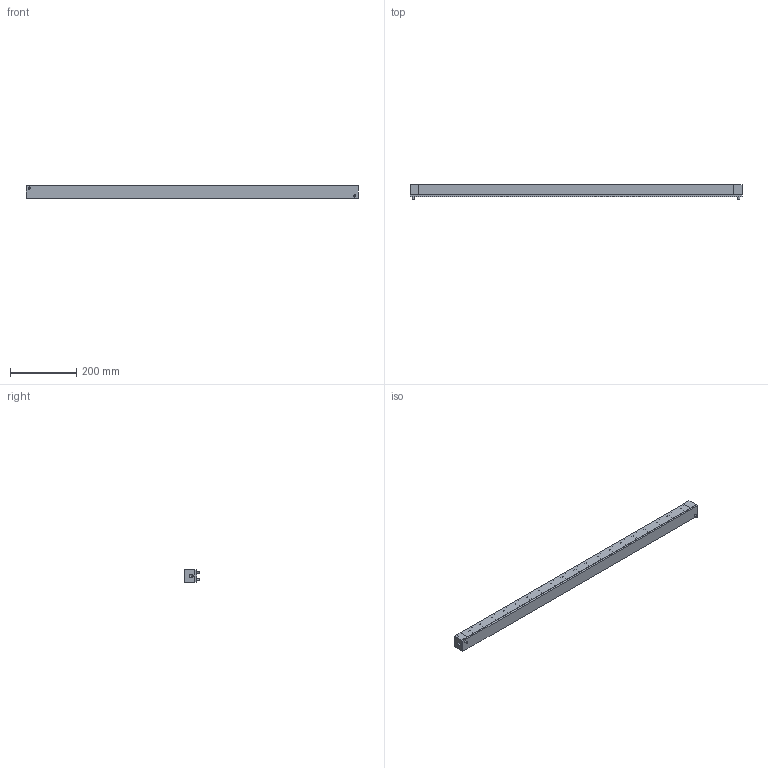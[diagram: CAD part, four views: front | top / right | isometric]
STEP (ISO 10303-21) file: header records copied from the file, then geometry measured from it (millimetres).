
FILE_DESCRIPTION( ( 'STEP AP214' ), '1' );
FILE_NAME( 'Z:/01-DesignData/標準品図面/★Web／カタログ用データ(型式別 3点Set)/067-ISR38 系/ISR38-1000-A_0_.stp', '2022-05-10T00:08:37', ( 'License CC BY-ND 4.0' ), ( 'CADENAS' ), ' ', 'PARTsolutions', ' ' );
FILE_SCHEMA( ( 'AUTOMOTIVE_DESIGN { 1 0 10303 214 1 1 1 1 }' ) );
Length unit declared in the file: millimetre
Products named in the file (5): ISR38-1000-A(0); _ISR38-1000-A-Body; _ISR38-1000-A-Box; _ISR38-1000-A(0)-Ball; _ISR38-1000-A-screw
Assembly tree (23 placements, depth 2):
  ISR38-1000-A(0)
    _ISR38-1000-A-Body
    _ISR38-1000-A-Box
    _ISR38-1000-A(0)-Ball  x19
    _ISR38-1000-A-screw  x2
Bounding box: 1000 x 45 x 38 mm (x, y, z)
Volume: 1319599.2 mm3; surface area: 400643.9 mm2
Topology: 23 solids, 23 shells, 1085 faces, 2268 edges, 1408 vertices
Faces by surface type: plane 757, cylinder 183, cone 84, torus 42, sphere 19
Full cylindrical faces by diameter (mm): 6 x2, 6.5 x2, 7 x2, 8 x2, 8.5 x38, 9.5 x38, 10 x2, 11 x2, 25.7 x19, 31.5 x19, 32 x19, 35 x38
Entity records: 28896 total; most frequent: DIRECTION 3930, CARTESIAN_POINT 3614, ORIENTED_EDGE 3200, EDGE_CURVE 1600, AXIS2_PLACEMENT_3D 1439, EDGE_LOOP 1210, VERTEX_POINT 1123, LINE 1052
